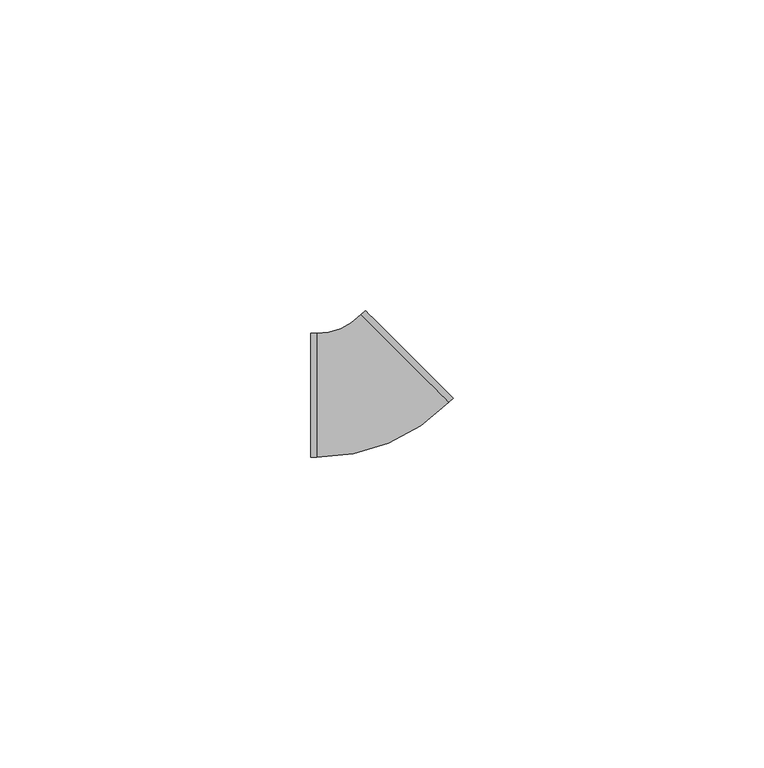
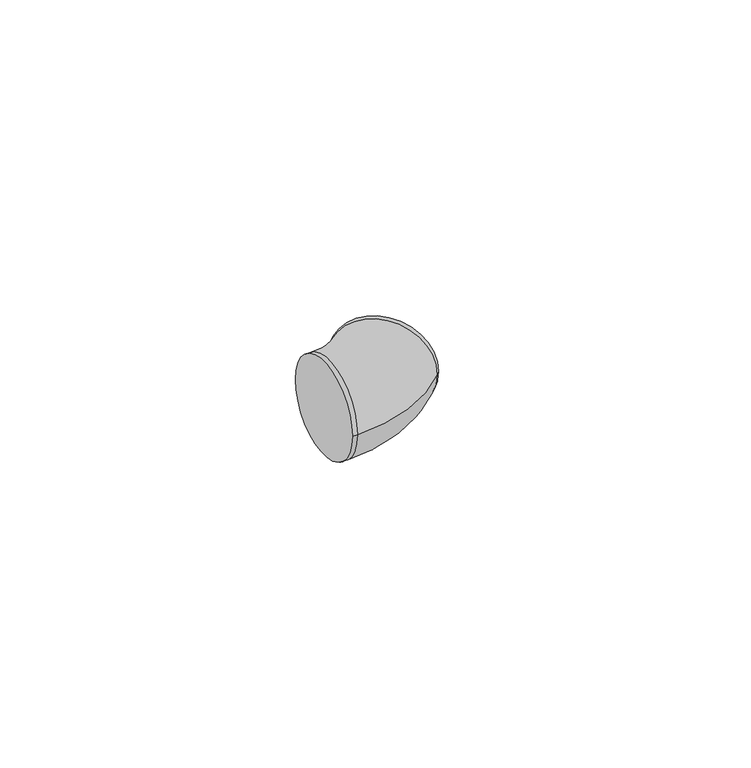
"""IFC4 building model written with IfcOpenShell, lengths in millimetres: cable carrier fitting geometry, ADSK_Поворот_Минимальный размер : Неспецифицируемый."""

import ifcopenshell
import ifcopenshell.guid

model = None  # the IFC model being written
_history = None  # IfcOwnerHistory: only IFC2X3 demands one
_inside = {}  # id of a spatial element -> (the spatial element, [elements in it])
_under = {}  # id of a project, library or spatial element -> (it, [spatial elements below it])
_declared = {}  # id of a project -> (the project, [libraries it declares])
_typed = {}  # id of a type object -> (the type object, [elements of that type])
_made_of = {}  # id of a material, layer set ... -> (it, [elements and type objects made of it])


def new_model(schema):
    """Start an empty IFC model of exactly this schema.

    Asked for "IFC4X3", IfcOpenShell would pick the latest addendum, in which some entities
    have other attributes; the version numbers below select the first issue.
    IFC2X3 requires an IfcOwnerHistory on every rooted entity: one is made here for all.
    """
    global model, _history
    if schema == "IFC4X3":
        model = ifcopenshell.file(schema_version=(4, 3, 0, 0))
    else:
        model = ifcopenshell.file(schema=schema)
    _inside.clear()
    _under.clear()
    _declared.clear()
    _typed.clear()
    _made_of.clear()
    _history = None
    if model.schema == "IFC2X3":
        org = make("IfcOrganization", Name="unknown")
        user = make(
            "IfcPersonAndOrganization",
            ThePerson=make("IfcPerson", FamilyName="unknown"),
            TheOrganization=org,
        )
        app = make(
            "IfcApplication",
            ApplicationDeveloper=org,
            Version="unknown",
            ApplicationFullName="unknown",
            ApplicationIdentifier="unknown",
        )
        _history = make(
            "IfcOwnerHistory",
            OwningUser=user,
            OwningApplication=app,
            ChangeAction="ADDED",
            CreationDate=0,
        )
    return model


def make(cls, **values):
    """One entity of the class cls with the attributes given. An attribute that is None is left unset."""
    return model.create_entity(
        cls, **{name: value for name, value in values.items() if value is not None}
    )


def rooted(cls, **values):
    """An entity with a GlobalId (a new one), such as an element, a storey or a relation."""
    return make(cls, GlobalId=ifcopenshell.guid.new(), OwnerHistory=_history, **values)


def si_unit(unit_type, name, prefix=None):
    """IfcSIUnit, for example si_unit("LENGTHUNIT", "METRE", prefix="MILLI")."""
    return make("IfcSIUnit", UnitType=unit_type, Prefix=prefix, Name=name)


def assignment(units):
    """IfcUnitAssignment: the units of a project."""
    return None if units is None else make("IfcUnitAssignment", Units=units)


def point(xyz):
    """IfcCartesianPoint."""
    return None if xyz is None else make("IfcCartesianPoint", Coordinates=xyz)


def direction(xyz):
    """IfcDirection."""
    return None if xyz is None else make("IfcDirection", DirectionRatios=xyz)


def frame(location, z_axis=None, x_axis=None):
    """IfcAxis2Placement3D, a coordinate frame: its origin and axes. An axis left out is left unset."""
    return make(
        "IfcAxis2Placement3D",
        Location=point(location),
        Axis=direction(z_axis),
        RefDirection=direction(x_axis),
    )


def origin():
    """The frame at (0, 0, 0) with its axes left unset."""
    return frame((0.0, 0.0, 0.0))


def place(relative_to, where):
    """IfcLocalPlacement: puts the frame where relative to a parent placement (None: the world)."""
    return make(
        "IfcLocalPlacement", PlacementRelTo=relative_to, RelativePlacement=where
    )


def context(
    kind, dimensions, precision=None, world=None, true_north=None, identifier=None
):
    """IfcGeometricRepresentationContext, for example the 3D "Model" context."""
    return make(
        "IfcGeometricRepresentationContext",
        ContextIdentifier=identifier,
        ContextType=kind,
        CoordinateSpaceDimension=dimensions,
        Precision=precision,
        WorldCoordinateSystem=world,
        TrueNorth=true_north,
    )


def project(units=None, contexts=None):
    """IfcProject with its units and contexts."""
    return rooted(
        "IfcProject",
        Name="project",
        RepresentationContexts=contexts,
        UnitsInContext=assignment(units),
    )


def spatial(cls, under=None, at=None, **own):
    """A site, building, storey or space (cls), placed at a placement, below another one or the project."""
    s = rooted(cls, ObjectPlacement=at, **own)
    if under is not None:
        _under.setdefault(under.id(), (under, []))[1].append(s)
    return s


def circle_curve(where, radius):
    """IfcCircle in the frame where."""
    return make("IfcCircle", Position=where, Radius=radius)


def ellipse_curve(where, semi_axis1, semi_axis2):
    """IfcEllipse in the frame where."""
    return make(
        "IfcEllipse", Position=where, SemiAxis1=semi_axis1, SemiAxis2=semi_axis2
    )


def trimmed(basis, trim1, trim2, sense, master):
    """IfcTrimmedCurve: the piece of a basis curve between two trims."""
    return make(
        "IfcTrimmedCurve",
        BasisCurve=basis,
        Trim1=trim1,
        Trim2=trim2,
        SenseAgreement=sense,
        MasterRepresentation=master,
    )


def shape(context_of_items, identifier, shape_type, items):
    """IfcShapeRepresentation: the items that make up one representation, for example the "Body"."""
    return make(
        "IfcShapeRepresentation",
        ContextOfItems=context_of_items,
        RepresentationIdentifier=identifier,
        RepresentationType=shape_type,
        Items=items,
    )


def source(mapping_origin, context_of_items, identifier, shape_type, items):
    """IfcRepresentationMap: a shape defined once, which mapped items show again and again."""
    return make(
        "IfcRepresentationMap",
        MappingOrigin=mapping_origin,
        MappedRepresentation=shape(context_of_items, identifier, shape_type, items),
    )


def transform(
    local_origin,
    x_axis=None,
    y_axis=None,
    z_axis=None,
    scale=None,
    scale2=None,
    scale3=None,
    uniform=True,
):
    """IfcCartesianTransformationOperator3D, or its non-uniform kind. x_axis, y_axis, z_axis: its Axis1, 2, 3."""
    if uniform:
        return make(
            "IfcCartesianTransformationOperator3D",
            Axis1=direction(x_axis),
            Axis2=direction(y_axis),
            LocalOrigin=point(local_origin),
            Scale=scale,
            Axis3=direction(z_axis),
        )
    return make(
        "IfcCartesianTransformationOperator3DnonUniform",
        Axis1=direction(x_axis),
        Axis2=direction(y_axis),
        LocalOrigin=point(local_origin),
        Scale=scale,
        Axis3=direction(z_axis),
        Scale2=scale2,
        Scale3=scale3,
    )


def mapped(mapping_source, mapping_target):
    """IfcMappedItem: shows the shape of a source again, moved by a transform."""
    return make(
        "IfcMappedItem", MappingSource=mapping_source, MappingTarget=mapping_target
    )


def made_of(thing, what):
    """Note that an element or type object is made of a material, layer set ...; save() writes the relation."""
    if what is not None:
        _made_of.setdefault(what.id(), (what, []))[1].append(thing)
    return thing


def element(
    cls,
    number,
    at=None,
    inside=None,
    cuts=None,
    type_object=None,
    material=None,
    context=None,
    identifier="Body",
    shape_type=None,
    held_by="IfcProductDefinitionShape",
    body=None,
    shapes=None,
    **own,
):
    """One element of the class cls, such as IfcWall. Its Tag is "e" and its number.

    at: its placement. inside: the storey or other place that contains it. cuts: it is an
    opening in that element (IfcRelVoidsElement). A single representation is given by context,
    identifier, shape_type and body (its items); several are given by shapes. held_by: the class
    of the entity that holds the representations. save() writes the other relations.
    """
    e = rooted(cls, Tag="e%d" % number, ObjectPlacement=at, **own)
    if body is not None:
        shapes = [shape(context, identifier, shape_type, body)]
    if shapes is not None:
        e.Representation = make(held_by, Representations=shapes)
    if inside is not None:
        _inside.setdefault(inside.id(), (inside, []))[1].append(e)
    if cuts is not None:
        rooted(
            "IfcRelVoidsElement", RelatingBuildingElement=cuts, RelatedOpeningElement=e
        )
    if type_object is not None:
        _typed.setdefault(type_object.id(), (type_object, []))[1].append(e)
    return made_of(e, material)


def aggregate(whole, parts):
    """IfcRelAggregates: a whole, such as a stair, and the parts it consists of."""
    return rooted("IfcRelAggregates", RelatingObject=whole, RelatedObjects=parts)


def save(model, path):
    """Write the relations noted so far, then the file.

    IfcRelAggregates (storeys below a building ...), IfcRelContainedInSpatialStructure (elements
    in a storey), IfcRelDefinesByType, IfcRelAssociatesMaterial and IfcRelDeclares: one each for
    every whole, place, type object, material and project.
    """
    for whole, parts in _under.values():
        aggregate(whole, parts)
    for where, things in _inside.values():
        rooted(
            "IfcRelContainedInSpatialStructure",
            RelatedElements=things,
            RelatingStructure=where,
        )
    for kind, things in _typed.values():
        rooted("IfcRelDefinesByType", RelatedObjects=things, RelatingType=kind)
    for what, things in _made_of.values():
        rooted("IfcRelAssociatesMaterial", RelatedObjects=things, RelatingMaterial=what)
    for by, libraries in _declared.values():
        rooted("IfcRelDeclares", RelatingContext=by, RelatedDefinitions=libraries)
    model.write(path)


def plane_surface(at):
    """IfcPlane: the flat surface through the origin of the frame at, square to its z axis."""
    return make("IfcPlane", Position=at)


def cylinder_surface(at, radius):
    """IfcCylindricalSurface: all points at the distance radius from the z axis of the frame at."""
    return make("IfcCylindricalSurface", Position=at, Radius=radius)


def revolved_surface(curve, axis_point, axis_direction):
    """IfcSurfaceOfRevolution: the curve turned about the line through axis_point along axis_direction."""
    return make(
        "IfcSurfaceOfRevolution",
        SweptCurve=make("IfcArbitraryOpenProfileDef", ProfileType="CURVE", Curve=curve),
        AxisPosition=make("IfcAxis1Placement", Location=point(axis_point), Axis=direction(axis_direction)),
    )


def advanced_brep(points, edges, surfaces, faces):
    """IfcAdvancedBrep: a solid bounded by faces that lie on surfaces and meet in shared edges.

    An edge is (start, end): straight between two places in points (the first is 0);
    or (start, end, curve); or (start, end, curve, False) where it runs against its curve.
    A face is (place in surfaces, loops), or (place, loops, False) where it looks against
    its surface's normal. A loop lists edges by number (the first is 1), with a minus sign
    where the edge is run from its end to its start. The first loop is the outer one.
    """
    corners = [point(p) for p in points]
    vertices = [make("IfcVertexPoint", VertexGeometry=c) for c in corners]
    made = []
    for start, end, *more in edges:
        made.append(
            make(
                "IfcEdgeCurve",
                EdgeStart=vertices[start],
                EdgeEnd=vertices[end],
                EdgeGeometry=more[0] if more else make("IfcPolyline", Points=[corners[start], corners[end]]),
                SameSense=more[1] if len(more) > 1 else True,
            )
        )
    hull = []
    for where, loops, *sense in faces:
        bounds = []
        for j, loop in enumerate(loops):
            ring = [make("IfcOrientedEdge", EdgeElement=made[abs(k) - 1], Orientation=k > 0) for k in loop]
            bounds.append(
                make(
                    "IfcFaceOuterBound" if j == 0 else "IfcFaceBound",
                    Bound=make("IfcEdgeLoop", EdgeList=ring),
                    Orientation=True,
                )
            )
        hull.append(make("IfcAdvancedFace", Bounds=bounds, FaceSurface=surfaces[where], SameSense=sense[0] if sense else True))
    return make("IfcAdvancedBrep", Outer=make("IfcClosedShell", CfsFaces=hull))


def cable_carrier_fitting_7a8e629b(model_context):
    return source(origin(), model_context, "Body", "AdvancedBrep", [
        advanced_brep(
        [(-9.3232848, -10.0, 0.0), (-9.3232848, 10.0, 0.0), (-8.3232848, -10.0, 0.0), (-8.3232848, 10.0, 0.0), (-1.2287257, 12.9525018, 0.0), (12.9603926, -1.1424945, 0.0), (13.6651424, -0.4330386, 0.0), (-0.5239759, 13.6619577, 0.0)],
        [
            (0, 1, circle_curve(frame((-9.3232848, 0.0, 0.0), z_axis=(-1.0, -4.92260399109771e-12, 0.0), x_axis=(-4.92260399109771e-12, 1.0, 0.0)), 10.0)),
            (1, 0, circle_curve(frame((-9.3232848, 0.0, 0.0), z_axis=(-1.0, -4.92260399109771e-12, 0.0), x_axis=(-4.92260399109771e-12, 1.0, 0.0)), 10.0)),
            (0, 2),
            (2, 3, circle_curve(frame((-8.3232848, 0.0, 0.0), z_axis=(-1.0, -4.92260399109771e-12, 0.0), x_axis=(-4.92260399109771e-12, 1.0, 0.0)), 10.0)),
            (3, 1),
            (3, 2, circle_curve(frame((-8.3232848, 0.0, 0.0), z_axis=(-1.0, -4.92260399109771e-12, 0.0), x_axis=(-4.92260399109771e-12, 1.0, 0.0)), 10.0)),
            (4, 3, circle_curve(frame((-8.3232848, 20.0, 0.0), z_axis=(0.0, 0.0, -1.0), x_axis=(0.0, -1.0, 0.0)), 10.0)),
            (2, 5, circle_curve(frame((-8.3232848, 20.0, 0.0), z_axis=(0.0, 0.0, 1.0), x_axis=(0.0, -1.0, 0.0)), 30.0)),
            (5, 4, circle_curve(frame((5.8658335, 5.9050037, 0.0), z_axis=(-0.7047498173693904, -0.7094559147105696, 0.0), x_axis=(-0.7094559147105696, 0.7047498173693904, 0.0)), 10.0)),
            (4, 5, circle_curve(frame((5.8658335, 5.9050037, 0.0), z_axis=(-0.7047498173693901, -0.7094559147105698, 0.0), x_axis=(-0.7094559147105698, 0.7047498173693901, 0.0)), 10.0)),
            (6, 7, circle_curve(frame((6.5705833, 6.6144596, 0.0), z_axis=(0.7047498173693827, 0.7094559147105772, 0.0), x_axis=(-0.7094559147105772, 0.7047498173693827, 0.0)), 10.0)),
            (7, 6, circle_curve(frame((6.5705833, 6.6144596, 0.0), z_axis=(0.7047498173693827, 0.7094559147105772, 0.0), x_axis=(-0.7094559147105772, 0.7047498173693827, 0.0)), 10.0)),
            (5, 6),
            (7, 4),
        ],
        [
            plane_surface(frame((-9.3232848, 0.0, 0.0), z_axis=(-1.0, -4.92260399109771e-12, 0.0), x_axis=(0.0, 0.0, 1.0))),
            cylinder_surface(frame((-9.3232848, 0.0, 0.0), z_axis=(-1.0, -4.92260399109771e-12, 0.0), x_axis=(-4.92260399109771e-12, 1.0, 0.0)), 10.0),
            revolved_surface(trimmed(ellipse_curve(frame((-8.3232848, 0.0, 0.0), z_axis=(-1.0, 0.0, 0.0), x_axis=(0.0, 1.0, 0.0)), 10.0, 10.0), [point((-8.3232848, -10.0, 0.0))], [point((-8.3232848, 10.0, 0.0))], True, "CARTESIAN"), (-8.3232848, 20.0, 0.0), (0.0, 0.0, 1.0)),
            revolved_surface(trimmed(ellipse_curve(frame((-8.3232848, 0.0, 0.0), z_axis=(-1.0, 0.0, 0.0), x_axis=(0.0, 1.0, 0.0)), 10.0, 10.0), [point((-8.3232848, 10.0, 0.0))], [point((-8.3232848, -10.0, 0.0))], True, "CARTESIAN"), (-8.3232848, 20.0, 0.0), (0.0, 0.0, 1.0)),
            plane_surface(frame((6.5705833, 6.6144596, 0.0), z_axis=(0.7047498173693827, 0.7094559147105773, 0.0), x_axis=(0.0, 0.0, 1.0))),
            cylinder_surface(frame((5.8658335, 5.9050037, 0.0), z_axis=(-0.7047498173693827, -0.7094559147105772, 0.0), x_axis=(-0.7094559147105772, 0.7047498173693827, 0.0)), 10.0),
        ],
        [
            (0, [[1, 2]]),
            (1, [[-1, 3, 4, 5]]),
            (1, [[-2, -5, 6, -3]]),
            (2, [[7, -4, 8, 9]]),
            (3, [[-8, -6, -7, 10]]),
            (4, [[11, 12]]),
            (5, [[-9, 13, -12, 14]]),
            (5, [[-10, -14, -11, -13]]),
        ],
    ),
    ])


if __name__ == "__main__":
    model = new_model("IFC4")
    model_context = context("Model", 3, world=origin())
    ifc_project = project(units=[si_unit("LENGTHUNIT", "METRE", prefix="MILLI")], contexts=[model_context])
    site = spatial("IfcSite", under=ifc_project)
    building = spatial("IfcBuilding", under=site)
    placement = place(None, origin())
    cable_carrier_fitting_shape = cable_carrier_fitting_7a8e629b(model_context)
    element("IfcCableCarrierFitting", 1, ObjectType="ADSK_Поворот_Минимальный размер : Неспецифицируемый", at=placement, inside=building, context=model_context, shape_type="MappedRepresentation", body=[
        mapped(cable_carrier_fitting_shape, transform((0.0, 0.0, 0.0), x_axis=(1.0, 0.0, 0.0), y_axis=(0.0, 1.0, 0.0), z_axis=(0.0, 0.0, 1.0))),
    ])
    save(model, "model.ifc")
